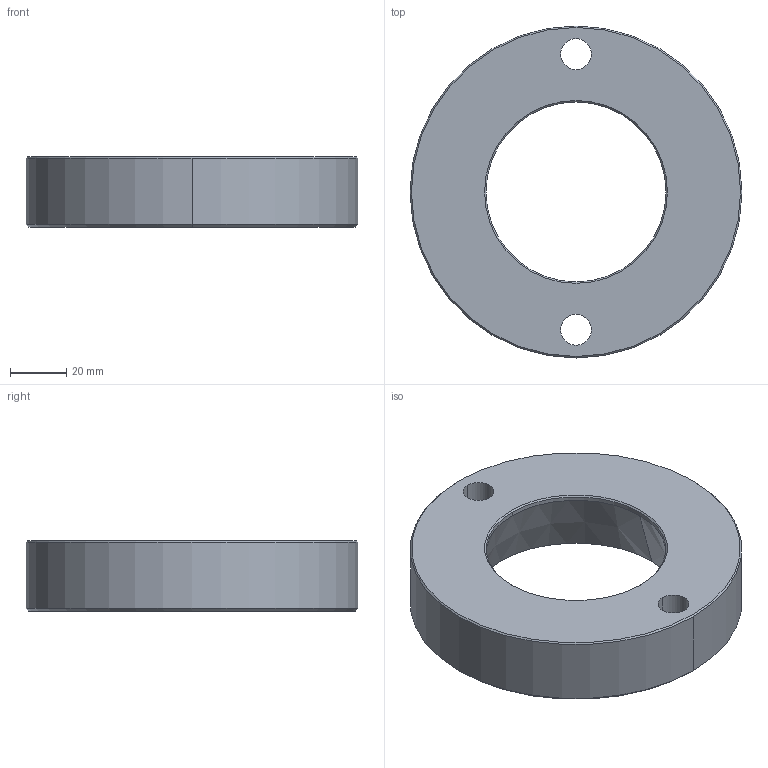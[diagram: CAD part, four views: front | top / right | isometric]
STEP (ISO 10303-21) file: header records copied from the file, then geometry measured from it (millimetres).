
FILE_DESCRIPTION((''),'2;1');
FILE_NAME('','2010-08-30T17:25:01+09:00',('misumi'),(''),'M/STEP i/f 1R2-14','CADmeister v5.1','');
FILE_SCHEMA(('AUTOMOTIVE_DESIGN'));
Length unit declared in the file: millimetre
Products named in the file (1): HKD50-25-N
Bounding box: 118 x 118 x 25 mm (x, y, z)
Volume: 168435.5 mm3; surface area: 30572.2 mm2
Topology: 1 solids, 1 shells, 24 faces, 54 edges, 34 vertices
Faces by surface type: cylinder 12, cone 8, plane 4
Entity records: 782 total; most frequent: DIRECTION 138, CARTESIAN_POINT 113, ORIENTED_EDGE 108, AXIS2_PLACEMENT_3D 59, EDGE_CURVE 54, VERTEX_POINT 34, CIRCLE 34, EDGE_LOOP 32
